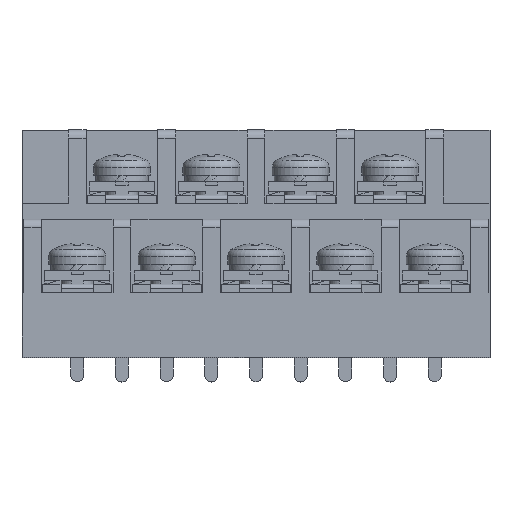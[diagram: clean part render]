
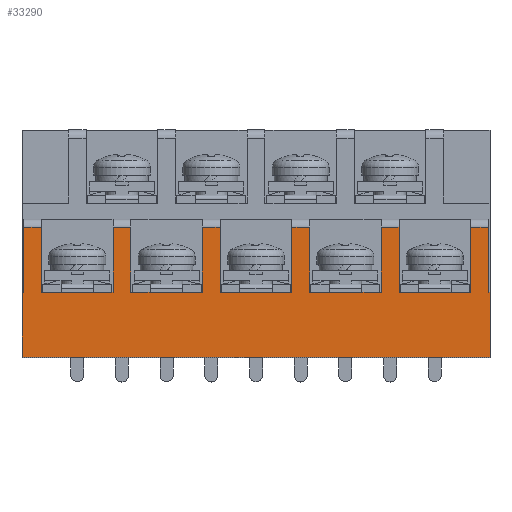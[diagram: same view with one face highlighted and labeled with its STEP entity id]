
A CAD part, top view. The second image highlights one B-rep face of the part: STEP entity #33290.
In plain terms, the highlighted planar face has unit normal (0, 0, 1).
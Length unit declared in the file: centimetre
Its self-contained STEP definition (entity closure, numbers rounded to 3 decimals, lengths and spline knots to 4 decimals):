
#2100=VERTEX_POINT('',#44100);
#2102=VERTEX_POINT('',#44104);
#2105=VERTEX_POINT('',#44114);
#2110=VERTEX_POINT('',#44127);
#2113=VERTEX_POINT('',#44134);
#2116=VERTEX_POINT('',#44140);
#2118=VERTEX_POINT('',#44148);
#2132=VERTEX_POINT('',#44181);
#2145=VERTEX_POINT('',#44213);
#2148=VERTEX_POINT('',#44219);
#2150=VERTEX_POINT('',#44225);
#2151=VERTEX_POINT('',#44229);
#2158=VERTEX_POINT('',#44248);
#2161=VERTEX_POINT('',#44254);
#2251=VERTEX_POINT('',#44547);
#2254=VERTEX_POINT('',#44557);
#2257=VERTEX_POINT('',#44563);
#2259=VERTEX_POINT('',#44569);
#2260=VERTEX_POINT('',#44573);
#2573=VERTEX_POINT('',#45567);
#2576=VERTEX_POINT('',#45573);
#2578=VERTEX_POINT('',#45579);
#2579=VERTEX_POINT('',#45583);
#2881=VERTEX_POINT('',#46552);
#2884=VERTEX_POINT('',#46558);
#2886=VERTEX_POINT('',#46564);
#2899=VERTEX_POINT('',#46598);
#2900=VERTEX_POINT('',#46600);
#5567=VECTOR('',#36691,1.);
#5572=VECTOR('',#36698,1.);
#5577=VECTOR('',#36706,1.);
#5582=VECTOR('',#36716,1.);
#5584=VECTOR('',#36720,1.);
#5587=VECTOR('',#36724,1.);
#5602=VECTOR('',#36741,1.);
#5617=VECTOR('',#36769,1.);
#5619=VECTOR('',#36775,1.);
#5621=VECTOR('',#36778,1.);
#5632=VECTOR('',#36794,1.);
#5634=VECTOR('',#36798,1.);
#5711=VECTOR('',#37010,1.);
#5717=VECTOR('',#37020,1.);
#5719=VECTOR('',#37026,1.);
#5721=VECTOR('',#37029,1.);
#5738=VECTOR('',#37048,1.);
#6065=VECTOR('',#37755,1.);
#6067=VECTOR('',#37761,1.);
#6069=VECTOR('',#37764,1.);
#6073=VECTOR('',#37769,1.);
#6400=VECTOR('',#38476,1.);
#6402=VECTOR('',#38482,1.);
#6403=VECTOR('',#38484,1.);
#6406=VECTOR('',#38488,1.);
#6419=VECTOR('',#38502,1.);
#6420=VECTOR('',#38503,1.);
#6421=VECTOR('',#38504,1.);
#9460=LINE('',#44105,#5567);
#9465=LINE('',#44116,#5572);
#9470=LINE('',#44126,#5577);
#9475=LINE('',#44141,#5582);
#9477=LINE('',#44144,#5584);
#9480=LINE('',#44150,#5587);
#9495=LINE('',#44180,#5602);
#9510=LINE('',#44220,#5617);
#9512=LINE('',#44226,#5619);
#9514=LINE('',#44231,#5621);
#9525=LINE('',#44255,#5632);
#9527=LINE('',#44258,#5634);
#9604=LINE('',#44549,#5711);
#9610=LINE('',#44564,#5717);
#9612=LINE('',#44570,#5719);
#9614=LINE('',#44575,#5721);
#9631=LINE('',#44606,#5738);
#9958=LINE('',#45574,#6065);
#9960=LINE('',#45580,#6067);
#9962=LINE('',#45585,#6069);
#9966=LINE('',#45591,#6073);
#10293=LINE('',#46559,#6400);
#10295=LINE('',#46565,#6402);
#10296=LINE('',#46567,#6403);
#10299=LINE('',#46571,#6406);
#10312=LINE('',#46597,#6419);
#10313=LINE('',#46599,#6420);
#10314=LINE('',#46601,#6421);
#13461=EDGE_CURVE('',#2102,#2100,#9460,.T.);
#13466=EDGE_CURVE('',#2102,#2105,#9465,.T.);
#13472=EDGE_CURVE('',#2100,#2110,#9470,.T.);
#13479=EDGE_CURVE('',#2113,#2116,#9475,.T.);
#13481=EDGE_CURVE('',#2110,#2116,#9477,.T.);
#13484=EDGE_CURVE('',#2113,#2118,#9480,.T.);
#13499=EDGE_CURVE('',#2118,#2132,#9495,.T.);
#13518=EDGE_CURVE('',#2145,#2148,#9510,.T.);
#13521=EDGE_CURVE('',#2150,#2148,#9512,.T.);
#13523=EDGE_CURVE('',#2151,#2150,#9514,.T.);
#13535=EDGE_CURVE('',#2158,#2161,#9525,.T.);
#13537=EDGE_CURVE('',#2132,#2161,#9527,.T.);
#13661=EDGE_CURVE('',#2158,#2251,#9604,.T.);
#13668=EDGE_CURVE('',#2254,#2257,#9610,.T.);
#13671=EDGE_CURVE('',#2259,#2257,#9612,.T.);
#13673=EDGE_CURVE('',#2260,#2259,#9614,.T.);
#13690=EDGE_CURVE('',#2254,#2151,#9631,.T.);
#14151=EDGE_CURVE('',#2573,#2576,#9958,.T.);
#14154=EDGE_CURVE('',#2578,#2576,#9960,.T.);
#14156=EDGE_CURVE('',#2579,#2578,#9962,.T.);
#14160=EDGE_CURVE('',#2573,#2260,#9966,.T.);
#14621=EDGE_CURVE('',#2881,#2884,#10293,.T.);
#14624=EDGE_CURVE('',#2886,#2884,#10295,.T.);
#14625=EDGE_CURVE('',#2251,#2886,#10296,.T.);
#14628=EDGE_CURVE('',#2881,#2579,#10299,.T.);
#14641=EDGE_CURVE('',#2105,#2899,#10312,.T.);
#14642=EDGE_CURVE('',#2899,#2900,#10313,.T.);
#14643=EDGE_CURVE('',#2145,#2900,#10314,.T.);
#21364=ORIENTED_EDGE('',*,*,#14641,.T.);
#21365=ORIENTED_EDGE('',*,*,#14642,.T.);
#21366=ORIENTED_EDGE('',*,*,#14643,.F.);
#21367=ORIENTED_EDGE('',*,*,#13518,.T.);
#21368=ORIENTED_EDGE('',*,*,#13521,.F.);
#21369=ORIENTED_EDGE('',*,*,#13523,.F.);
#21370=ORIENTED_EDGE('',*,*,#13690,.F.);
#21371=ORIENTED_EDGE('',*,*,#13668,.T.);
#21372=ORIENTED_EDGE('',*,*,#13671,.F.);
#21373=ORIENTED_EDGE('',*,*,#13673,.F.);
#21374=ORIENTED_EDGE('',*,*,#14160,.F.);
#21375=ORIENTED_EDGE('',*,*,#14151,.T.);
#21376=ORIENTED_EDGE('',*,*,#14154,.F.);
#21377=ORIENTED_EDGE('',*,*,#14156,.F.);
#21378=ORIENTED_EDGE('',*,*,#14628,.F.);
#21379=ORIENTED_EDGE('',*,*,#14621,.T.);
#21380=ORIENTED_EDGE('',*,*,#14624,.F.);
#21381=ORIENTED_EDGE('',*,*,#14625,.F.);
#21382=ORIENTED_EDGE('',*,*,#13661,.F.);
#21383=ORIENTED_EDGE('',*,*,#13535,.T.);
#21384=ORIENTED_EDGE('',*,*,#13537,.F.);
#21385=ORIENTED_EDGE('',*,*,#13499,.F.);
#21386=ORIENTED_EDGE('',*,*,#13484,.F.);
#21387=ORIENTED_EDGE('',*,*,#13479,.T.);
#21388=ORIENTED_EDGE('',*,*,#13481,.F.);
#21389=ORIENTED_EDGE('',*,*,#13472,.F.);
#21390=ORIENTED_EDGE('',*,*,#13461,.F.);
#21391=ORIENTED_EDGE('',*,*,#13466,.T.);
#29080=EDGE_LOOP('',(#21364,#21365,#21366,#21367,#21368,#21369,#21370,#21371,
#21372,#21373,#21374,#21375,#21376,#21377,#21378,#21379,#21380,#21381,#21382,
#21383,#21384,#21385,#21386,#21387,#21388,#21389,#21390,#21391));
#31222=FACE_BOUND('',#29080,.T.);
#33290=ADVANCED_FACE('',(#31222),#35107,.T.);
#35107=PLANE('',#56709);
#36691=DIRECTION('',(1.,0.,0.));
#36698=DIRECTION('',(0.,-1.,0.));
#36706=DIRECTION('',(0.,1.,0.));
#36716=DIRECTION('',(0.,1.,0.));
#36720=DIRECTION('',(1.,0.,0.));
#36724=DIRECTION('',(1.,0.,0.));
#36741=DIRECTION('',(0.,1.,0.));
#36769=DIRECTION('',(0.,1.,0.));
#36775=DIRECTION('',(1.,0.,0.));
#36778=DIRECTION('',(0.,1.,0.));
#36794=DIRECTION('',(0.,1.,0.));
#36798=DIRECTION('',(1.,0.,0.));
#37010=DIRECTION('',(1.,0.,0.));
#37020=DIRECTION('',(0.,1.,0.));
#37026=DIRECTION('',(1.,0.,0.));
#37029=DIRECTION('',(0.,1.,0.));
#37048=DIRECTION('',(1.,0.,0.));
#37755=DIRECTION('',(0.,1.,0.));
#37761=DIRECTION('',(1.,0.,0.));
#37764=DIRECTION('',(0.,1.,0.));
#37769=DIRECTION('',(1.,0.,0.));
#38476=DIRECTION('',(0.,1.,0.));
#38482=DIRECTION('',(1.,0.,0.));
#38484=DIRECTION('',(0.,1.,0.));
#38488=DIRECTION('',(1.,0.,0.));
#38501=DIRECTION('',(0.,0.,1.));
#38502=DIRECTION('',(1.,0.,0.));
#38503=DIRECTION('',(0.,1.,0.));
#38504=DIRECTION('',(1.,0.,0.));
#44100=CARTESIAN_POINT('',(-2.31,-1.245,1.75));
#44104=CARTESIAN_POINT('',(-2.33,-1.245,1.75));
#44105=CARTESIAN_POINT('',(-2.33,-1.245,1.75));
#44114=CARTESIAN_POINT('',(-2.33,-2.045,1.75));
#44116=CARTESIAN_POINT('',(-2.33,-1.245,1.75));
#44126=CARTESIAN_POINT('',(-2.31,-2.045,1.75));
#44127=CARTESIAN_POINT('',(-2.31,-0.445,1.75));
#44134=CARTESIAN_POINT('',(-2.09,-1.245,1.75));
#44140=CARTESIAN_POINT('',(-2.09,-0.445,1.75));
#44141=CARTESIAN_POINT('',(-2.09,-2.045,1.75));
#44144=CARTESIAN_POINT('',(-2.31,-0.445,1.75));
#44148=CARTESIAN_POINT('',(-1.21,-1.245,1.75));
#44150=CARTESIAN_POINT('',(-2.09,-1.245,1.75));
#44180=CARTESIAN_POINT('',(-1.21,-2.045,1.75));
#44181=CARTESIAN_POINT('',(-1.21,-0.445,1.75));
#44213=CARTESIAN_POINT('',(3.41,-1.245,1.75));
#44219=CARTESIAN_POINT('',(3.41,-0.445,1.75));
#44220=CARTESIAN_POINT('',(3.41,-2.045,1.75));
#44225=CARTESIAN_POINT('',(3.19,-0.445,1.75));
#44226=CARTESIAN_POINT('',(3.19,-0.445,1.75));
#44229=CARTESIAN_POINT('',(3.19,-1.245,1.75));
#44231=CARTESIAN_POINT('',(3.19,-2.045,1.75));
#44248=CARTESIAN_POINT('',(-0.99,-1.245,1.75));
#44254=CARTESIAN_POINT('',(-0.99,-0.445,1.75));
#44255=CARTESIAN_POINT('',(-0.99,-2.045,1.75));
#44258=CARTESIAN_POINT('',(-1.21,-0.445,1.75));
#44547=CARTESIAN_POINT('',(-0.11,-1.245,1.75));
#44549=CARTESIAN_POINT('',(-0.99,-1.245,1.75));
#44557=CARTESIAN_POINT('',(2.31,-1.245,1.75));
#44563=CARTESIAN_POINT('',(2.31,-0.445,1.75));
#44564=CARTESIAN_POINT('',(2.31,-2.045,1.75));
#44569=CARTESIAN_POINT('',(2.09,-0.445,1.75));
#44570=CARTESIAN_POINT('',(2.09,-0.445,1.75));
#44573=CARTESIAN_POINT('',(2.09,-1.245,1.75));
#44575=CARTESIAN_POINT('',(2.09,-2.045,1.75));
#44606=CARTESIAN_POINT('',(2.31,-1.245,1.75));
#45567=CARTESIAN_POINT('',(1.21,-1.245,1.75));
#45573=CARTESIAN_POINT('',(1.21,-0.445,1.75));
#45574=CARTESIAN_POINT('',(1.21,-2.045,1.75));
#45579=CARTESIAN_POINT('',(0.99,-0.445,1.75));
#45580=CARTESIAN_POINT('',(0.99,-0.445,1.75));
#45583=CARTESIAN_POINT('',(0.99,-1.245,1.75));
#45585=CARTESIAN_POINT('',(0.99,-2.045,1.75));
#45591=CARTESIAN_POINT('',(1.21,-1.245,1.75));
#46552=CARTESIAN_POINT('',(0.11,-1.245,1.75));
#46558=CARTESIAN_POINT('',(0.11,-0.445,1.75));
#46559=CARTESIAN_POINT('',(0.11,-2.045,1.75));
#46564=CARTESIAN_POINT('',(-0.11,-0.445,1.75));
#46565=CARTESIAN_POINT('',(-0.11,-0.445,1.75));
#46567=CARTESIAN_POINT('',(-0.11,-2.045,1.75));
#46571=CARTESIAN_POINT('',(0.11,-1.245,1.75));
#46596=CARTESIAN_POINT('',(0.11,-1.645,1.75));
#46597=CARTESIAN_POINT('',(-0.99,-2.045,1.75));
#46598=CARTESIAN_POINT('',(3.43,-2.045,1.75));
#46599=CARTESIAN_POINT('',(3.43,-1.245,1.75));
#46600=CARTESIAN_POINT('',(3.43,-1.245,1.75));
#46601=CARTESIAN_POINT('',(3.41,-1.245,1.75));
#56709=AXIS2_PLACEMENT_3D('',#46596,#38501,$);
